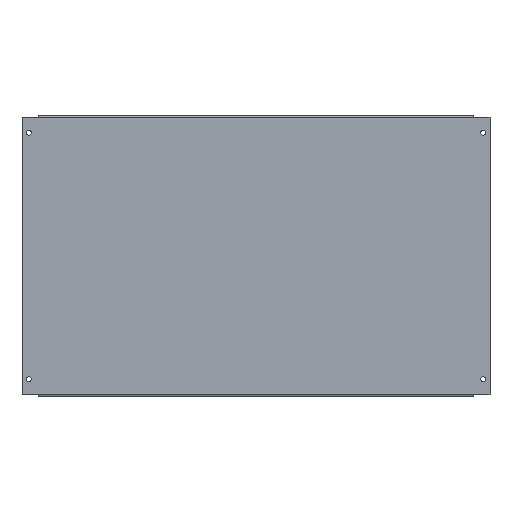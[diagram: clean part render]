
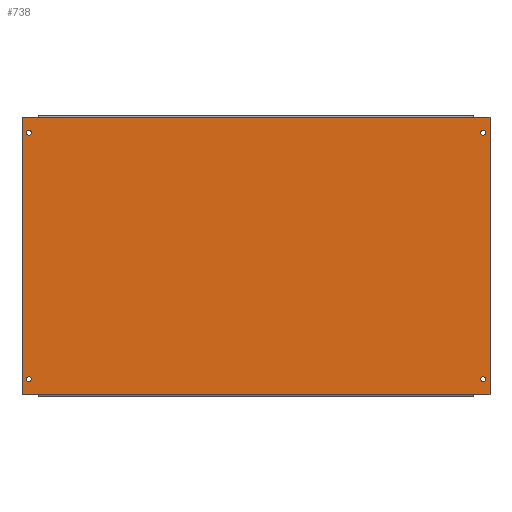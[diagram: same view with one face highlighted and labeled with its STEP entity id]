
A CAD part, top view. The second image highlights one B-rep face of the part: STEP entity #738.
In plain terms, the highlighted planar face has unit normal (0, 0, 1).
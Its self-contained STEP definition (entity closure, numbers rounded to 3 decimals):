
#6 = VERTEX_POINT ( 'NONE', #162 ) ;
#7 = VERTEX_POINT ( 'NONE', #163 ) ;
#8 = VERTEX_POINT ( 'NONE', #164 ) ;
#9 = VERTEX_POINT ( 'NONE', #165 ) ;
#10 = VERTEX_POINT ( 'NONE', #166 ) ;
#11 = VERTEX_POINT ( 'NONE', #167 ) ;
#137 = EDGE_LOOP ( 'NONE', ( #994, #992 ) ) ;
#138 = EDGE_LOOP ( 'NONE', ( #978, #987 ) ) ;
#139 = EDGE_LOOP ( 'NONE', ( #999, #1000 ) ) ;
#154 = EDGE_LOOP ( 'NONE', ( #1010, #1009 ) ) ;
#155 = EDGE_LOOP ( 'NONE', ( #985, #1002, #1001, #1003, #1004, #1005, #1006, #1007 ) ) ;
#162 = CARTESIAN_POINT ( 'NONE',  ( -309.5, -197.1, 1.2 ) ) ;
#163 = CARTESIAN_POINT ( 'NONE',  ( 309.5, -197.1, 1.2 ) ) ;
#164 = CARTESIAN_POINT ( 'NONE',  ( 332.5, -197.1, 1.2 ) ) ;
#165 = CARTESIAN_POINT ( 'NONE',  ( 332.5, 197.1, 1.2 ) ) ;
#166 = CARTESIAN_POINT ( 'NONE',  ( 309.5, 197.1, 1.2 ) ) ;
#167 = CARTESIAN_POINT ( 'NONE',  ( -309.5, 197.1, 1.2 ) ) ;
#229 = LINE ( 'NONE', #230, #894 ) ;
#230 = CARTESIAN_POINT ( 'NONE',  ( -332.5, 197.1, 1.2 ) ) ;
#231 = DIRECTION ( 'NONE',  ( -1., 0., 0. ) ) ;
#235 = LINE ( 'NONE', #236, #892 ) ;
#236 = CARTESIAN_POINT ( 'NONE',  ( 309.5, 197.1, 1.2 ) ) ;
#237 = DIRECTION ( 'NONE',  ( -1., 0., 0. ) ) ;
#246 = CARTESIAN_POINT ( 'NONE',  ( -322.75, -175., 1.2 ) ) ;
#250 = DIRECTION ( 'NONE',  ( 0., 0., -1. ) ) ;
#251 = DIRECTION ( 'NONE',  ( 1., 0., 0. ) ) ;
#270 = CARTESIAN_POINT ( 'NONE',  ( -326.25, -175., 1.2 ) ) ;
#272 = CARTESIAN_POINT ( 'NONE',  ( 319.25, -175., 1.2 ) ) ;
#277 = CARTESIAN_POINT ( 'NONE',  ( -319.25, -175., 1.2 ) ) ;
#278 = CARTESIAN_POINT ( 'NONE',  ( 326.25, -175., 1.2 ) ) ;
#280 = CARTESIAN_POINT ( 'NONE',  ( -326.25, 175., 1.2 ) ) ;
#283 = CARTESIAN_POINT ( 'NONE',  ( 326.25, 175., 1.2 ) ) ;
#284 = CARTESIAN_POINT ( 'NONE',  ( 319.25, 175., 1.2 ) ) ;
#285 = PLANE ( 'NONE',  #889 ) ;
#286 = CARTESIAN_POINT ( 'NONE',  ( -332.5, -199.5, 1.2 ) ) ;
#287 = DIRECTION ( 'NONE',  ( 0., 0., 1. ) ) ;
#288 = DIRECTION ( 'NONE',  ( 1., 0., 0. ) ) ;
#293 = LINE ( 'NONE', #294, #931 ) ;
#294 = CARTESIAN_POINT ( 'NONE',  ( -309.5, -197.1, 1.2 ) ) ;
#295 = DIRECTION ( 'NONE',  ( 1., 0., 0. ) ) ;
#334 = CARTESIAN_POINT ( 'NONE',  ( 322.75, -175., 1.2 ) ) ;
#335 = DIRECTION ( 'NONE',  ( 0., 0., 1. ) ) ;
#336 = DIRECTION ( 'NONE',  ( 1., 0., 0. ) ) ;
#471 = EDGE_CURVE ( 'NONE', #11, #959, #229, .T. ) ;
#477 = EDGE_CURVE ( 'NONE', #10, #11, #235, .T. ) ;
#487 = CARTESIAN_POINT ( 'NONE',  ( 322.75, 175., 1.2 ) ) ;
#488 = DIRECTION ( 'NONE',  ( 0., 0., -1. ) ) ;
#489 = DIRECTION ( 'NONE',  ( 1., 0., 0. ) ) ;
#535 = LINE ( 'NONE', #536, #639 ) ;
#536 = CARTESIAN_POINT ( 'NONE',  ( -332.5, 199.5, 1.2 ) ) ;
#537 = DIRECTION ( 'NONE',  ( 0., -1., 0. ) ) ;
#538 = LINE ( 'NONE', #539, #638 ) ;
#539 = CARTESIAN_POINT ( 'NONE',  ( 332.5, 199.5, 1.2 ) ) ;
#540 = DIRECTION ( 'NONE',  ( 0., 1., 0. ) ) ;
#541 = LINE ( 'NONE', #542, #636 ) ;
#542 = CARTESIAN_POINT ( 'NONE',  ( -332.5, 197.1, 1.2 ) ) ;
#543 = DIRECTION ( 'NONE',  ( -1., 0., 0. ) ) ;
#556 = CARTESIAN_POINT ( 'NONE',  ( 322.75, 175., 1.2 ) ) ;
#557 = DIRECTION ( 'NONE',  ( 0., 0., -1. ) ) ;
#558 = DIRECTION ( 'NONE',  ( 1., 0., 0. ) ) ;
#559 = CARTESIAN_POINT ( 'NONE',  ( -322.75, 175., 1.2 ) ) ;
#563 = DIRECTION ( 'NONE',  ( 0., 0., 1. ) ) ;
#564 = DIRECTION ( 'NONE',  ( 1., 0., 0. ) ) ;
#575 = CARTESIAN_POINT ( 'NONE',  ( -322.75, -175., 1.2 ) ) ;
#576 = DIRECTION ( 'NONE',  ( 0., 0., -1. ) ) ;
#577 = DIRECTION ( 'NONE',  ( 1., 0., 0. ) ) ;
#578 = CARTESIAN_POINT ( 'NONE',  ( -322.75, 175., 1.2 ) ) ;
#579 = EDGE_CURVE ( 'NONE', #708, #706, #795, .T. ) ;
#580 = DIRECTION ( 'NONE',  ( 0., 0., 1. ) ) ;
#581 = DIRECTION ( 'NONE',  ( 1., 0., 0. ) ) ;
#582 = CARTESIAN_POINT ( 'NONE',  ( 322.75, -175., 1.2 ) ) ;
#583 = LINE ( 'NONE', #584, #604 ) ;
#584 = CARTESIAN_POINT ( 'NONE',  ( -332.5, -197.1, 1.2 ) ) ;
#585 = DIRECTION ( 'NONE',  ( 1., 0., 0. ) ) ;
#586 = DIRECTION ( 'NONE',  ( 0., 0., 1. ) ) ;
#588 = DIRECTION ( 'NONE',  ( 1., 0., 0. ) ) ;
#589 = LINE ( 'NONE', #591, #603 ) ;
#591 = CARTESIAN_POINT ( 'NONE',  ( -332.5, -197.1, 1.2 ) ) ;
#593 = DIRECTION ( 'NONE',  ( 1., 0., 0. ) ) ;
#594 = CARTESIAN_POINT ( 'NONE',  ( -332.5, 197.1, 1.2 ) ) ;
#595 = CARTESIAN_POINT ( 'NONE',  ( -319.25, 175., 1.2 ) ) ;
#596 = CARTESIAN_POINT ( 'NONE',  ( -332.5, -197.1, 1.2 ) ) ;
#603 = VECTOR ( 'NONE', #593, 1000. ) ;
#604 = VECTOR ( 'NONE', #585, 1000. ) ;
#621 = AXIS2_PLACEMENT_3D ( 'NONE', #487, #488, #489 ) ;
#636 = VECTOR ( 'NONE', #543, 1000. ) ;
#638 = VECTOR ( 'NONE', #540, 1000. ) ;
#639 = VECTOR ( 'NONE', #537, 1000. ) ;
#701 = VERTEX_POINT ( 'NONE', #272 ) ;
#706 = VERTEX_POINT ( 'NONE', #277 ) ;
#707 = VERTEX_POINT ( 'NONE', #278 ) ;
#708 = VERTEX_POINT ( 'NONE', #270 ) ;
#723 = VERTEX_POINT ( 'NONE', #280 ) ;
#726 = VERTEX_POINT ( 'NONE', #283 ) ;
#727 = VERTEX_POINT ( 'NONE', #284 ) ;
#738 = ADVANCED_FACE ( 'NONE', ( #954, #953, #870, #871, #950 ), #285, .T. ) ;
#740 = EDGE_CURVE ( 'NONE', #6, #7, #293, .T. ) ;
#752 = EDGE_CURVE ( 'NONE', #701, #707, #804, .T. ) ;
#783 = CIRCLE ( 'NONE', #975, 3.5 ) ;
#784 = CIRCLE ( 'NONE', #965, 3.5 ) ;
#785 = CIRCLE ( 'NONE', #969, 3.5 ) ;
#787 = CIRCLE ( 'NONE', #973, 3.5 ) ;
#790 = CIRCLE ( 'NONE', #621, 3.5 ) ;
#795 = CIRCLE ( 'NONE', #881, 3.5 ) ;
#804 = CIRCLE ( 'NONE', #948, 3.5 ) ;
#806 = CIRCLE ( 'NONE', #963, 3.5 ) ;
#836 = EDGE_CURVE ( 'NONE', #726, #727, #790, .T. ) ;
#849 = EDGE_CURVE ( 'NONE', #959, #961, #535, .T. ) ;
#850 = EDGE_CURVE ( 'NONE', #8, #9, #538, .T. ) ;
#851 = EDGE_CURVE ( 'NONE', #9, #10, #541, .T. ) ;
#856 = EDGE_CURVE ( 'NONE', #727, #726, #783, .T. ) ;
#858 = EDGE_CURVE ( 'NONE', #723, #960, #787, .T. ) ;
#862 = EDGE_CURVE ( 'NONE', #706, #708, #785, .T. ) ;
#863 = EDGE_CURVE ( 'NONE', #960, #723, #784, .T. ) ;
#864 = EDGE_CURVE ( 'NONE', #7, #8, #583, .T. ) ;
#865 = EDGE_CURVE ( 'NONE', #707, #701, #806, .T. ) ;
#866 = EDGE_CURVE ( 'NONE', #961, #6, #589, .T. ) ;
#870 = FACE_BOUND ( 'NONE', #139, .T. ) ;
#871 = FACE_OUTER_BOUND ( 'NONE', #155, .T. ) ;
#881 = AXIS2_PLACEMENT_3D ( 'NONE', #246, #250, #251 ) ;
#889 = AXIS2_PLACEMENT_3D ( 'NONE', #286, #287, #288 ) ;
#892 = VECTOR ( 'NONE', #237, 1000. ) ;
#894 = VECTOR ( 'NONE', #231, 1000. ) ;
#931 = VECTOR ( 'NONE', #295, 1000. ) ;
#948 = AXIS2_PLACEMENT_3D ( 'NONE', #334, #335, #336 ) ;
#950 = FACE_BOUND ( 'NONE', #154, .T. ) ;
#953 = FACE_BOUND ( 'NONE', #138, .T. ) ;
#954 = FACE_BOUND ( 'NONE', #137, .T. ) ;
#959 = VERTEX_POINT ( 'NONE', #594 ) ;
#960 = VERTEX_POINT ( 'NONE', #595 ) ;
#961 = VERTEX_POINT ( 'NONE', #596 ) ;
#963 = AXIS2_PLACEMENT_3D ( 'NONE', #582, #586, #588 ) ;
#965 = AXIS2_PLACEMENT_3D ( 'NONE', #578, #580, #581 ) ;
#969 = AXIS2_PLACEMENT_3D ( 'NONE', #575, #576, #577 ) ;
#973 = AXIS2_PLACEMENT_3D ( 'NONE', #559, #563, #564 ) ;
#975 = AXIS2_PLACEMENT_3D ( 'NONE', #556, #557, #558 ) ;
#978 = ORIENTED_EDGE ( 'NONE', *, *, #836, .T. ) ;
#985 = ORIENTED_EDGE ( 'NONE', *, *, #849, .T. ) ;
#987 = ORIENTED_EDGE ( 'NONE', *, *, #856, .T. ) ;
#992 = ORIENTED_EDGE ( 'NONE', *, *, #752, .F. ) ;
#994 = ORIENTED_EDGE ( 'NONE', *, *, #865, .F. ) ;
#999 = ORIENTED_EDGE ( 'NONE', *, *, #863, .F. ) ;
#1000 = ORIENTED_EDGE ( 'NONE', *, *, #858, .F. ) ;
#1001 = ORIENTED_EDGE ( 'NONE', *, *, #740, .T. ) ;
#1002 = ORIENTED_EDGE ( 'NONE', *, *, #866, .T. ) ;
#1003 = ORIENTED_EDGE ( 'NONE', *, *, #864, .T. ) ;
#1004 = ORIENTED_EDGE ( 'NONE', *, *, #850, .T. ) ;
#1005 = ORIENTED_EDGE ( 'NONE', *, *, #851, .T. ) ;
#1006 = ORIENTED_EDGE ( 'NONE', *, *, #477, .T. ) ;
#1007 = ORIENTED_EDGE ( 'NONE', *, *, #471, .T. ) ;
#1009 = ORIENTED_EDGE ( 'NONE', *, *, #579, .T. ) ;
#1010 = ORIENTED_EDGE ( 'NONE', *, *, #862, .T. ) ;
